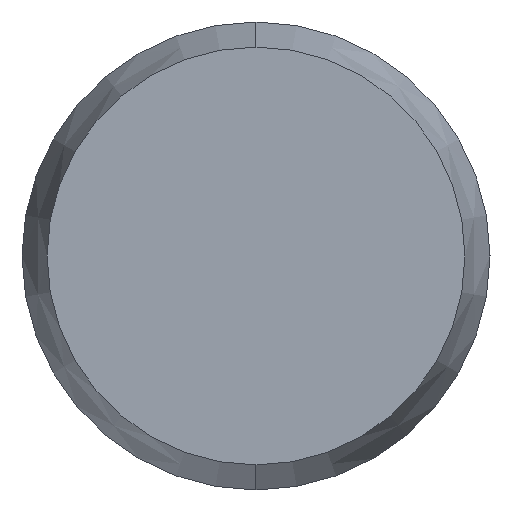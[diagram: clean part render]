
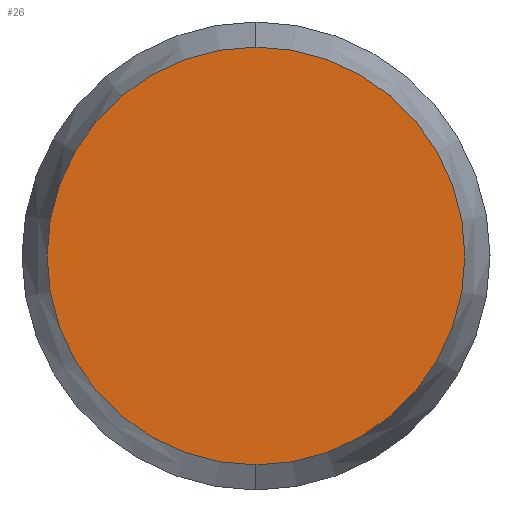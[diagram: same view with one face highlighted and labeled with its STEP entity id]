
A CAD part, left-side view. The second image highlights one B-rep face of the part: STEP entity #26.
In plain terms, the highlighted planar face has unit normal (-1, 0, 0).
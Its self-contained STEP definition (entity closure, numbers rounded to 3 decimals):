
#26 = ADVANCED_FACE ( 'NONE', ( #218 ), #214, .F. ) ;
#27 = EDGE_LOOP ( 'NONE', ( #28, #29 ) ) ;
#28 = ORIENTED_EDGE ( 'NONE', *, *, #61, .F. ) ;
#29 = ORIENTED_EDGE ( 'NONE', *, *, #88, .F. ) ;
#61 = EDGE_CURVE ( 'NONE', #62, #63, #256, .T. ) ;
#62 = VERTEX_POINT ( 'NONE', #251 ) ;
#63 = VERTEX_POINT ( 'NONE', #250 ) ;
#88 = EDGE_CURVE ( 'NONE', #63, #62, #210, .T. ) ;
#122 = DIRECTION ( 'NONE',  ( 0., 0., -1. ) ) ;
#123 = DIRECTION ( 'NONE',  ( 1., 0., 0. ) ) ;
#124 = CARTESIAN_POINT ( 'NONE',  ( -7., 0., 0. ) ) ;
#206 = DIRECTION ( 'NONE',  ( 0., 0., -1. ) ) ;
#207 = DIRECTION ( 'NONE',  ( 1., 0., 0. ) ) ;
#208 = CARTESIAN_POINT ( 'NONE',  ( -7., 0., 0. ) ) ;
#209 = AXIS2_PLACEMENT_3D ( 'NONE', #208, #207, #206 ) ;
#210 = CIRCLE ( 'NONE', #209, 0.67 ) ;
#213 = AXIS2_PLACEMENT_3D ( 'NONE', #124, #123, #122 ) ;
#214 = PLANE ( 'NONE',  #213 ) ;
#218 = FACE_OUTER_BOUND ( 'NONE', #27, .T. ) ;
#250 = CARTESIAN_POINT ( 'NONE',  ( -7., 0., -0.67 ) ) ;
#251 = CARTESIAN_POINT ( 'NONE',  ( -7., 0., 0.67 ) ) ;
#252 = DIRECTION ( 'NONE',  ( 0., 0., -1. ) ) ;
#253 = DIRECTION ( 'NONE',  ( 1., 0., 0. ) ) ;
#254 = CARTESIAN_POINT ( 'NONE',  ( -7., 0., 0. ) ) ;
#255 = AXIS2_PLACEMENT_3D ( 'NONE', #254, #253, #252 ) ;
#256 = CIRCLE ( 'NONE', #255, 0.67 ) ;
